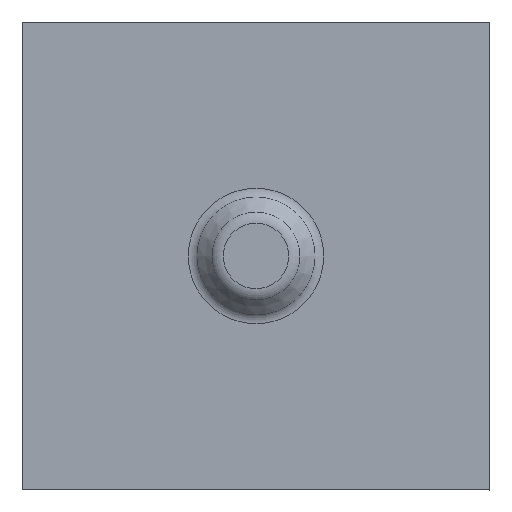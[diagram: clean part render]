
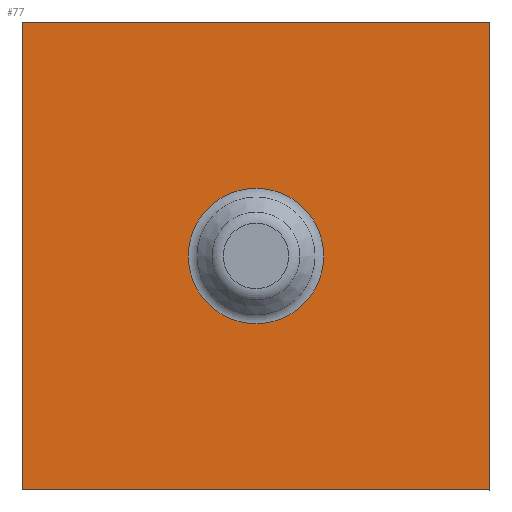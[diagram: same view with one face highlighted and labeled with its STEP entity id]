
A CAD part, top view. The second image highlights one B-rep face of the part: STEP entity #77.
In plain terms, the highlighted planar face has unit normal (0, 0, 1).
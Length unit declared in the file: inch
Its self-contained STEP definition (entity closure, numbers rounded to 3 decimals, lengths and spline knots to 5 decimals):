
#77=ADVANCED_FACE('',(#94,#95),#96,.T.);
#94=FACE_BOUND('',#130,.T.);
#95=FACE_OUTER_BOUND('',#131,.T.);
#96=PLANE('',#132);
#130=EDGE_LOOP('',(#176));
#131=EDGE_LOOP('',(#177,#178,#179,#180));
#132=AXIS2_PLACEMENT_3D('',#181,#182,#183);
#176=ORIENTED_EDGE('',*,*,#251,.F.);
#177=ORIENTED_EDGE('',*,*,#245,.T.);
#178=ORIENTED_EDGE('',*,*,#252,.T.);
#179=ORIENTED_EDGE('',*,*,#253,.T.);
#180=ORIENTED_EDGE('',*,*,#248,.T.);
#181=CARTESIAN_POINT('',(2.1075,-1.04279,-0.855));
#182=DIRECTION('',(0.,0.,1.0));
#183=DIRECTION('',(1.0,0.,0.));
#245=EDGE_CURVE('',#267,#264,#268,.T.);
#248=EDGE_CURVE('',#272,#267,#273,.T.);
#251=EDGE_CURVE('',#277,#277,#278,.T.);
#252=EDGE_CURVE('',#264,#279,#280,.T.);
#253=EDGE_CURVE('',#279,#272,#281,.T.);
#264=VERTEX_POINT('',#300);
#267=VERTEX_POINT('',#304);
#268=LINE('',#305,#306);
#272=VERTEX_POINT('',#312);
#273=LINE('',#313,#314);
#277=VERTEX_POINT('',#320);
#278=CIRCLE('',#321,0.28971);
#279=VERTEX_POINT('',#322);
#280=LINE('',#323,#324);
#281=LINE('',#325,#326);
#300=CARTESIAN_POINT('',(-0.49121,-2.57879,-0.855));
#304=CARTESIAN_POINT('',(-2.49121,-2.57879,-0.855));
#305=CARTESIAN_POINT('',(-13453.94592,-2.57879,-0.855));
#306=VECTOR('',#349,1.0);
#312=CARTESIAN_POINT('',(-2.49121,-0.57879,-0.855));
#313=CARTESIAN_POINT('',(-2.49121,5381.72146,-0.855));
#314=VECTOR('',#352,1.0);
#320=CARTESIAN_POINT('',(-1.20151,-1.57879,-0.855));
#321=AXIS2_PLACEMENT_3D('',#355,#356,#357);
#322=CARTESIAN_POINT('',(-0.49121,-0.57879,-0.855));
#323=CARTESIAN_POINT('',(-0.49121,9167.46692,-0.855));
#324=VECTOR('',#358,1.0);
#325=CARTESIAN_POINT('',(-15921.17949,-0.57879,-0.855));
#326=VECTOR('',#359,1.0);
#349=DIRECTION('',(1.0,0.0,0.));
#352=DIRECTION('',(0.0,-1.0,0.));
#355=CARTESIAN_POINT('',(-1.49121,-1.57879,-0.855));
#356=DIRECTION('',(0.,0.,1.0));
#357=DIRECTION('',(0.0,-1.0,0.));
#358=DIRECTION('',(0.0,1.0,0.));
#359=DIRECTION('',(-1.0,0.0,0.));
